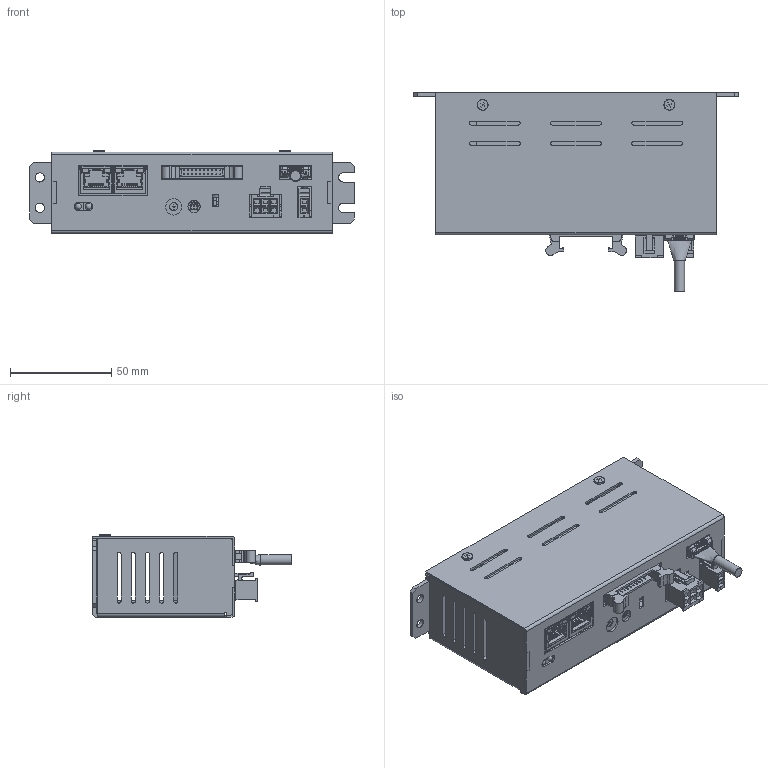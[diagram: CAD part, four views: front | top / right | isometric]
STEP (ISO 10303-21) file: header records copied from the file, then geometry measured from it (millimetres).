
FILE_DESCRIPTION( ( '' ), '1' );
FILE_NAME( 'D:/DIMA/02-驅動器/DC-二相/2019_DSE23D/ES23DD_VerD.stp', '2020-10-29T04:53:21', ( 'Dimamotor' ), ( 'Dimamotor' ), 'PSStep 17.0.49', ' ', ' ' );
FILE_SCHEMA( ( 'AUTOMOTIVE_DESIGN { 1 0 10303 214 1 1 1 1 }' ) );
Length unit declared in the file: millimetre
Products named in the file (52): 牛角20P-P2; 短耳; PCB-E_VerD; 5023860970;     MSBR; PCB-D_VerD; 數字開關; 指撥開關-2P; 可變電阻; C-1586041-6; C-1586041-2; LED含座-紅_AL-33-1R; LED含座-G_AL-33-1R; 7078; 壓板_VerD; PCB_VerD; Assem1; C-1586765-6; C-794954-2; 5023800900; M3鉚釘-4.5高; M3x25L_銅柱; MEAA-D14-41_VerD; M3x4L平頭; 2BU
Assembly tree (82 placements, depth 5):
  Assem1
    C-1586765-6
    C-794954-2
    5023800900
    M3鉚釘-4.5高  x3
    M3x25L_銅柱  x3
    MEAA-D14-41_VerD
    M3x4L平頭  x2
    2BU
    PCB_VerD
      PCB-E_VerD
        5023860970
        PCB-E_VerD
            MSBR  x2
            MSBR  x2
            MSBR  x2
            MSBR  x2
            MSBR  x2
            MSBR  x2
            MSBR  x2
            MSBR  x2
            MSBR  x2
            MSBR  x2
            MSBR  x2
            MSBR  x2
            MSBR  x2
            MSBR  x2
            MSBR  x2
            MSBR  x2
            MSBR  x2
            MSBR  x2
            MSBR  x2
            MSBR  x2
            MSBR  x2
            MSBR  x2
            MSBR  x2
            MSBR  x2
            MSBR  x2
        牛角20P-P2
          牛角20P-P2
          短耳  x2
      PCB-D_VerD
        數字開關
        指撥開關-2P
        可變電阻
        C-1586041-6
        C-1586041-2
        LED含座-紅_AL-33-1R
        LED含座-G_AL-33-1R
        PCB-D_VerD
        7078
        壓板_VerD
Bounding box: 160 x 97.9 x 41.1 mm (x, y, z)
Volume: 96372.8 mm3; surface area: 132848.7 mm2
Topology: 78 solids, 78 shells, 4208 faces, 11485 edges, 7529 vertices
Faces by surface type: plane 3539, cylinder 588, bspline 44, cone 21, torus 10, sphere 6
Full cylindrical faces by diameter (mm): 0.6 x3, 0.644 x1, 0.7 x4, 0.8 x6, 0.827 x1, 1 x6, 1.052 x1, 1.5 x3, 1.6 x8, 2 x9, 2.459 x3, 2.5 x3, 3 x14, 3.2 x4, 3.39 x1, 3.4 x1, 4 x16, 4.2 x6, 4.5 x2, 5 x1, 5.35 x2, 6 x4, 8 x1
Entity records: 158850 total; most frequent: CARTESIAN_POINT 36247, ORIENTED_EDGE 17660, DIRECTION 16398, EDGE_CURVE 8830, LINE 7704, VECTOR 7704, VERTEX_POINT 5848, PRESENTATION_STYLE_ASSIGNMENT 5763
